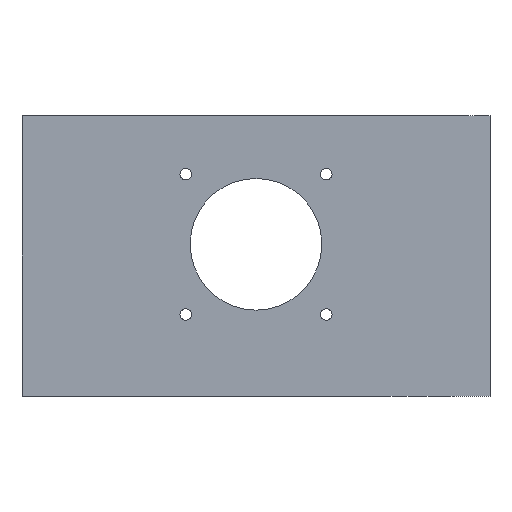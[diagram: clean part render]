
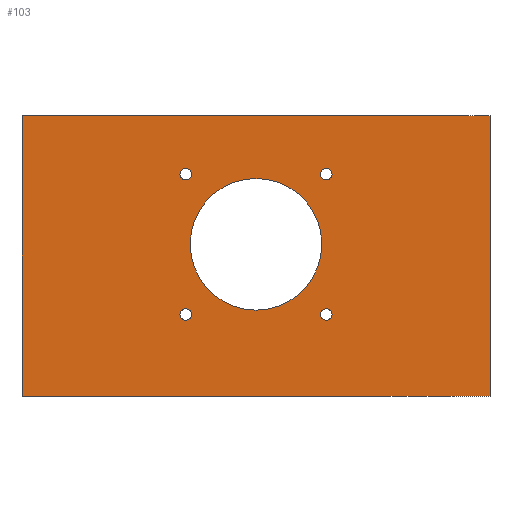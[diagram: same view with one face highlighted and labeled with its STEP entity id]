
A CAD part, front view. The second image highlights one B-rep face of the part: STEP entity #103.
In plain terms, the highlighted planar face has unit normal (0, -1, 0).
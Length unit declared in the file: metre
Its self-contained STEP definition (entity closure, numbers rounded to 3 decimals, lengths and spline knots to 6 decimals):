
#103 = ADVANCED_FACE( '', ( #265, #266, #267, #268, #269, #270 ), #271, .T. );
#265 = FACE_BOUND( '', #520, .T. );
#266 = FACE_BOUND( '', #521, .T. );
#267 = FACE_BOUND( '', #522, .T. );
#268 = FACE_BOUND( '', #523, .T. );
#269 = FACE_BOUND( '', #524, .T. );
#270 = FACE_OUTER_BOUND( '', #525, .T. );
#271 = PLANE( '', #526 );
#520 = EDGE_LOOP( '', ( #985, #986 ) );
#521 = EDGE_LOOP( '', ( #987, #988 ) );
#522 = EDGE_LOOP( '', ( #989, #990 ) );
#523 = EDGE_LOOP( '', ( #991, #992 ) );
#524 = EDGE_LOOP( '', ( #993, #994 ) );
#525 = EDGE_LOOP( '', ( #995, #996, #997, #998 ) );
#526 = AXIS2_PLACEMENT_3D( '', #999, #1000, #1001 );
#985 = ORIENTED_EDGE( '', *, *, #1811, .F. );
#986 = ORIENTED_EDGE( '', *, *, #1812, .F. );
#987 = ORIENTED_EDGE( '', *, *, #1813, .F. );
#988 = ORIENTED_EDGE( '', *, *, #1814, .F. );
#989 = ORIENTED_EDGE( '', *, *, #1815, .F. );
#990 = ORIENTED_EDGE( '', *, *, #1816, .F. );
#991 = ORIENTED_EDGE( '', *, *, #1817, .F. );
#992 = ORIENTED_EDGE( '', *, *, #1818, .F. );
#993 = ORIENTED_EDGE( '', *, *, #1819, .T. );
#994 = ORIENTED_EDGE( '', *, *, #1820, .T. );
#995 = ORIENTED_EDGE( '', *, *, #1739, .F. );
#996 = ORIENTED_EDGE( '', *, *, #1652, .F. );
#997 = ORIENTED_EDGE( '', *, *, #1821, .T. );
#998 = ORIENTED_EDGE( '', *, *, #1822, .T. );
#999 = CARTESIAN_POINT( '', ( 5., 0., 3. ) );
#1000 = DIRECTION( '', ( 0., -1., 0. ) );
#1001 = DIRECTION( '', ( 0., 0., -1. ) );
#1652 = EDGE_CURVE( '', #1958, #1960, #1961, .T. );
#1739 = EDGE_CURVE( '', #1960, #2125, #2126, .T. );
#1811 = EDGE_CURVE( '', #2252, #2253, #2254, .T. );
#1812 = EDGE_CURVE( '', #2253, #2252, #2255, .T. );
#1813 = EDGE_CURVE( '', #2256, #2257, #2258, .T. );
#1814 = EDGE_CURVE( '', #2257, #2256, #2259, .T. );
#1815 = EDGE_CURVE( '', #2260, #2261, #2262, .T. );
#1816 = EDGE_CURVE( '', #2261, #2260, #2263, .T. );
#1817 = EDGE_CURVE( '', #2264, #2265, #2266, .T. );
#1818 = EDGE_CURVE( '', #2265, #2264, #2267, .T. );
#1819 = EDGE_CURVE( '', #2268, #2269, #2270, .T. );
#1820 = EDGE_CURVE( '', #2269, #2268, #2271, .T. );
#1821 = EDGE_CURVE( '', #1958, #2272, #2273, .T. );
#1822 = EDGE_CURVE( '', #2272, #2125, #2274, .T. );
#1958 = VERTEX_POINT( '', #2456 );
#1960 = VERTEX_POINT( '', #2459 );
#1961 = LINE( '', #2460, #2461 );
#2125 = VERTEX_POINT( '', #2684 );
#2126 = LINE( '', #2685, #2686 );
#2252 = VERTEX_POINT( '', #2852 );
#2253 = VERTEX_POINT( '', #2853 );
#2254 = CIRCLE( '', #2854, 0.0625 );
#2255 = CIRCLE( '', #2855, 0.0625 );
#2256 = VERTEX_POINT( '', #2856 );
#2257 = VERTEX_POINT( '', #2857 );
#2258 = CIRCLE( '', #2858, 0.0625 );
#2259 = CIRCLE( '', #2859, 0.0625 );
#2260 = VERTEX_POINT( '', #2860 );
#2261 = VERTEX_POINT( '', #2861 );
#2262 = CIRCLE( '', #2862, 0.0625 );
#2263 = CIRCLE( '', #2863, 0.0625 );
#2264 = VERTEX_POINT( '', #2864 );
#2265 = VERTEX_POINT( '', #2865 );
#2266 = CIRCLE( '', #2866, 0.0625 );
#2267 = CIRCLE( '', #2867, 0.0625 );
#2268 = VERTEX_POINT( '', #2868 );
#2269 = VERTEX_POINT( '', #2869 );
#2270 = CIRCLE( '', #2870, 0.703125 );
#2271 = CIRCLE( '', #2871, 0.703125 );
#2272 = VERTEX_POINT( '', #2872 );
#2273 = LINE( '', #2873, #2874 );
#2274 = LINE( '', #2875, #2876 );
#2456 = CARTESIAN_POINT( '', ( 5., 0., 3. ) );
#2459 = CARTESIAN_POINT( '', ( 5., 0., 0. ) );
#2460 = CARTESIAN_POINT( '', ( 5., 0., 3. ) );
#2461 = VECTOR( '', #3160, 1. );
#2684 = CARTESIAN_POINT( '', ( 0., 0., 0. ) );
#2685 = CARTESIAN_POINT( '', ( 5., 0., 0. ) );
#2686 = VECTOR( '', #3309, 1. );
#2852 = CARTESIAN_POINT( '', ( 3.25, 0., 0.8125 ) );
#2853 = CARTESIAN_POINT( '', ( 3.25, 0., 0.9375 ) );
#2854 = AXIS2_PLACEMENT_3D( '', #3454, #3455, #3456 );
#2855 = AXIS2_PLACEMENT_3D( '', #3457, #3458, #3459 );
#2856 = CARTESIAN_POINT( '', ( 1.6875, 0., 0.875 ) );
#2857 = CARTESIAN_POINT( '', ( 1.8125, 0., 0.875 ) );
#2858 = AXIS2_PLACEMENT_3D( '', #3460, #3461, #3462 );
#2859 = AXIS2_PLACEMENT_3D( '', #3463, #3464, #3465 );
#2860 = CARTESIAN_POINT( '', ( 1.75, 0., 2.4375 ) );
#2861 = CARTESIAN_POINT( '', ( 1.75, 0., 2.3125 ) );
#2862 = AXIS2_PLACEMENT_3D( '', #3466, #3467, #3468 );
#2863 = AXIS2_PLACEMENT_3D( '', #3469, #3470, #3471 );
#2864 = CARTESIAN_POINT( '', ( 3.3125, 0., 2.375 ) );
#2865 = CARTESIAN_POINT( '', ( 3.1875, 0., 2.375 ) );
#2866 = AXIS2_PLACEMENT_3D( '', #3472, #3473, #3474 );
#2867 = AXIS2_PLACEMENT_3D( '', #3475, #3476, #3477 );
#2868 = CARTESIAN_POINT( '', ( 3.203125, 0., 1.625 ) );
#2869 = CARTESIAN_POINT( '', ( 1.796875, 0., 1.625 ) );
#2870 = AXIS2_PLACEMENT_3D( '', #3478, #3479, #3480 );
#2871 = AXIS2_PLACEMENT_3D( '', #3481, #3482, #3483 );
#2872 = CARTESIAN_POINT( '', ( 0., 0., 3. ) );
#2873 = CARTESIAN_POINT( '', ( 5., 0., 3. ) );
#2874 = VECTOR( '', #3484, 1. );
#2875 = CARTESIAN_POINT( '', ( 0., 0., 3. ) );
#2876 = VECTOR( '', #3485, 1. );
#3160 = DIRECTION( '', ( 0., 0., -1. ) );
#3309 = DIRECTION( '', ( -1., 0., 0. ) );
#3454 = CARTESIAN_POINT( '', ( 3.25, 0., 0.875 ) );
#3455 = DIRECTION( '', ( 0., -1., 0. ) );
#3456 = DIRECTION( '', ( 0., 0., -1. ) );
#3457 = CARTESIAN_POINT( '', ( 3.25, 0., 0.875 ) );
#3458 = DIRECTION( '', ( 0., -1., 0. ) );
#3459 = DIRECTION( '', ( 0., 0., -1. ) );
#3460 = CARTESIAN_POINT( '', ( 1.75, 0., 0.875 ) );
#3461 = DIRECTION( '', ( 0., -1., 0. ) );
#3462 = DIRECTION( '', ( -1., 0., 0. ) );
#3463 = CARTESIAN_POINT( '', ( 1.75, 0., 0.875 ) );
#3464 = DIRECTION( '', ( 0., -1., 0. ) );
#3465 = DIRECTION( '', ( -1., 0., 0. ) );
#3466 = CARTESIAN_POINT( '', ( 1.75, 0., 2.375 ) );
#3467 = DIRECTION( '', ( 0., -1., 0. ) );
#3468 = DIRECTION( '', ( 0., 0., 1. ) );
#3469 = CARTESIAN_POINT( '', ( 1.75, 0., 2.375 ) );
#3470 = DIRECTION( '', ( 0., -1., 0. ) );
#3471 = DIRECTION( '', ( 0., 0., 1. ) );
#3472 = CARTESIAN_POINT( '', ( 3.25, 0., 2.375 ) );
#3473 = DIRECTION( '', ( 0., -1., 0. ) );
#3474 = DIRECTION( '', ( 1., 0., 0. ) );
#3475 = CARTESIAN_POINT( '', ( 3.25, 0., 2.375 ) );
#3476 = DIRECTION( '', ( 0., -1., 0. ) );
#3477 = DIRECTION( '', ( 1., 0., 0. ) );
#3478 = CARTESIAN_POINT( '', ( 2.5, 0., 1.625 ) );
#3479 = DIRECTION( '', ( 0., 1., 0. ) );
#3480 = DIRECTION( '', ( 0., 0., 1. ) );
#3481 = CARTESIAN_POINT( '', ( 2.5, 0., 1.625 ) );
#3482 = DIRECTION( '', ( 0., 1., 0. ) );
#3483 = DIRECTION( '', ( 0., 0., 1. ) );
#3484 = DIRECTION( '', ( -1., 0., 0. ) );
#3485 = DIRECTION( '', ( 0., 0., -1. ) );
